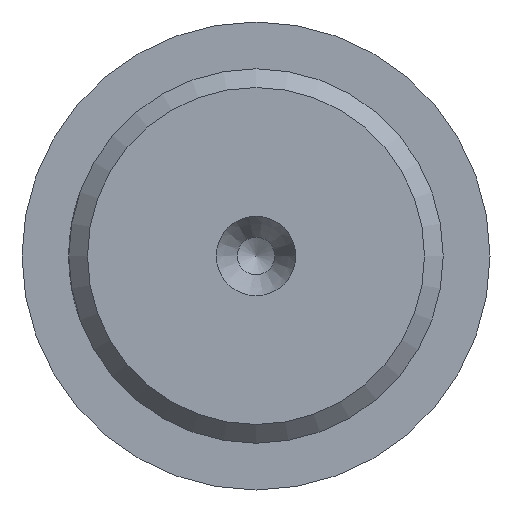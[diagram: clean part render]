
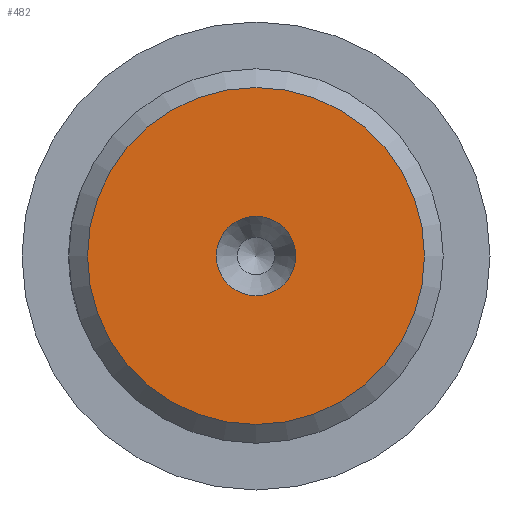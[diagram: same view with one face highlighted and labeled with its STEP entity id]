
A CAD part, left-side view. The second image highlights one B-rep face of the part: STEP entity #482.
In plain terms, the highlighted planar face has unit normal (-1, 0, 0).
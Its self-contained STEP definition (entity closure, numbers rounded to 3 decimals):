
#19=FACE_BOUND('',#126,.T.);
#58=CIRCLE('',#554,9.);
#59=CIRCLE('',#556,2.125);
#93=FACE_OUTER_BOUND('',#125,.T.);
#125=EDGE_LOOP('',(#379));
#126=EDGE_LOOP('',(#380));
#228=VERTEX_POINT('',#846);
#229=VERTEX_POINT('',#850);
#285=EDGE_CURVE('',#228,#228,#58,.T.);
#286=EDGE_CURVE('',#229,#229,#59,.T.);
#379=ORIENTED_EDGE('',*,*,#285,.F.);
#380=ORIENTED_EDGE('',*,*,#286,.T.);
#463=PLANE('',#555);
#482=ADVANCED_FACE('',(#93,#19),#463,.T.);
#554=AXIS2_PLACEMENT_3D('',#848,#661,#662);
#555=AXIS2_PLACEMENT_3D('',#849,#663,#664);
#556=AXIS2_PLACEMENT_3D('',#851,#665,#666);
#661=DIRECTION('center_axis',(1.,0.,0.));
#662=DIRECTION('ref_axis',(0.,-1.,0.));
#663=DIRECTION('center_axis',(-1.,0.,0.));
#664=DIRECTION('ref_axis',(0.,0.,1.));
#665=DIRECTION('center_axis',(1.,0.,0.));
#666=DIRECTION('ref_axis',(0.,0.,-1.));
#846=CARTESIAN_POINT('',(0.,9.,0.));
#848=CARTESIAN_POINT('Origin',(0.,0.,0.));
#849=CARTESIAN_POINT('Origin',(0.,10.,0.));
#850=CARTESIAN_POINT('',(0.,-2.125,0.));
#851=CARTESIAN_POINT('Origin',(0.,0.,0.));
